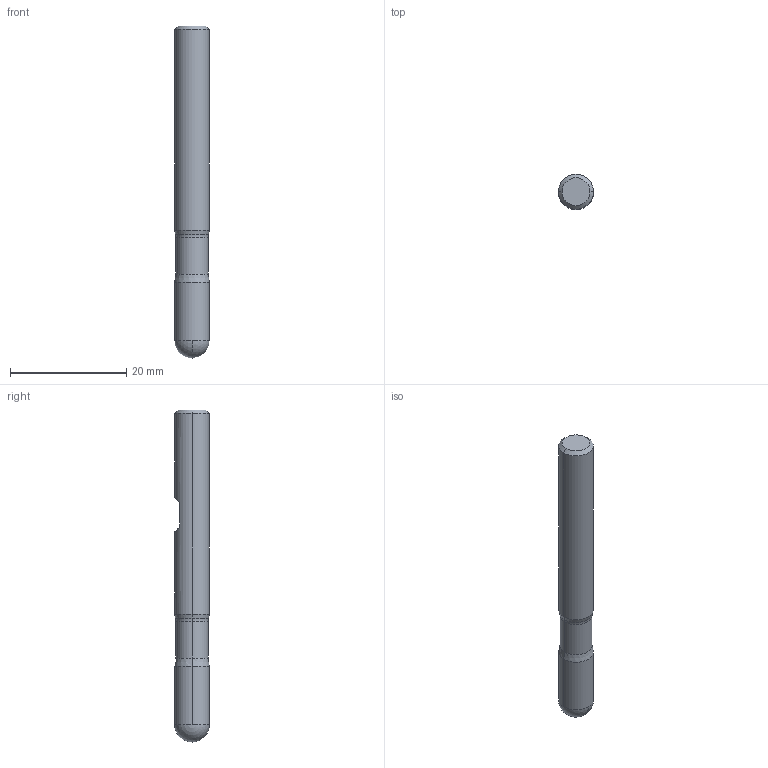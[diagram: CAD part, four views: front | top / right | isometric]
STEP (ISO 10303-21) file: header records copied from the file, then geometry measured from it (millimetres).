
FILE_DESCRIPTION (( 'STEP AP214' ), '1' );
FILE_NAME ('739.061.09_3D-model.step', '2022-02-19T09:33:11', ( '' ), ( '' ), 'SwSTEP 2.0', 'SolidWorks 2020', '' );
FILE_SCHEMA (( 'AUTOMOTIVE_DESIGN' ));
Length unit declared in the file: millimetre
Products named in the file (3): CUT-3D^Baugr30; NOCUT-3D^Baugr30; 739.061.09_3D-model
Assembly tree (2 placements, depth 2):
  739.061.09_3D-model
    CUT-3D^Baugr30
    NOCUT-3D^Baugr30
Bounding box: 6 x 6 x 57 mm (x, y, z)
Volume: 1532 mm3; surface area: 1140.7 mm2
Topology: 2 solids, 2 shells, 22 faces, 44 edges, 25 vertices
Faces by surface type: cylinder 6, plane 6, cone 6, sphere 2, torus 2
Entity records: 680 total; most frequent: DIRECTION 124, CARTESIAN_POINT 103, ORIENTED_EDGE 84, AXIS2_PLACEMENT_3D 54, EDGE_CURVE 42, VERTEX_POINT 25, CIRCLE 24, EDGE_LOOP 23
